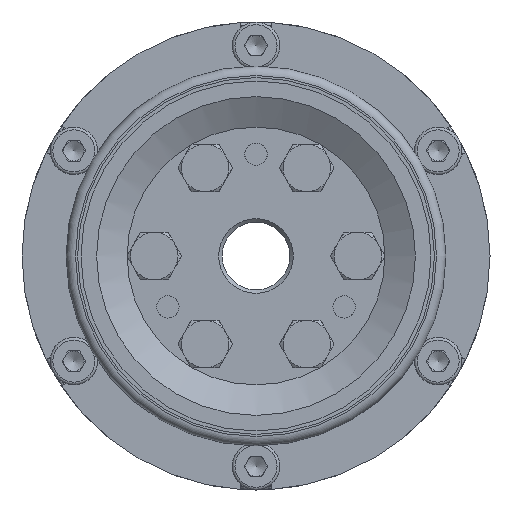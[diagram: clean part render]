
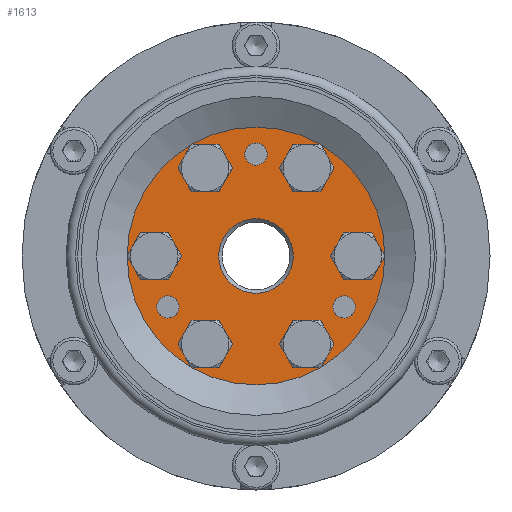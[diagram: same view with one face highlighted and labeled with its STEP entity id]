
A CAD part, left-side view. The second image highlights one B-rep face of the part: STEP entity #1613.
In plain terms, the highlighted planar face has unit normal (-1, 0, 0).
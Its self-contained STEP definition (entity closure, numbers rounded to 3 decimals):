
#1613 = ADVANCED_FACE( '', ( #3551, #3552, #3553, #3554, #3555, #3556, #3557, #3558, #3559, #3560, #3561 ), #3562, .T. );
#3551 = FACE_BOUND( '', #6147, .T. );
#3552 = FACE_OUTER_BOUND( '', #6148, .T. );
#3553 = FACE_BOUND( '', #6149, .T. );
#3554 = FACE_BOUND( '', #6150, .T. );
#3555 = FACE_BOUND( '', #6151, .T. );
#3556 = FACE_BOUND( '', #6152, .T. );
#3557 = FACE_BOUND( '', #6153, .T. );
#3558 = FACE_BOUND( '', #6154, .T. );
#3559 = FACE_BOUND( '', #6155, .T. );
#3560 = FACE_BOUND( '', #6156, .T. );
#3561 = FACE_BOUND( '', #6157, .T. );
#3562 = PLANE( '', #6158 );
#6147 = EDGE_LOOP( '', ( #10774 ) );
#6148 = EDGE_LOOP( '', ( #10775 ) );
#6149 = EDGE_LOOP( '', ( #10776 ) );
#6150 = EDGE_LOOP( '', ( #10777 ) );
#6151 = EDGE_LOOP( '', ( #10778 ) );
#6152 = EDGE_LOOP( '', ( #10779 ) );
#6153 = EDGE_LOOP( '', ( #10780 ) );
#6154 = EDGE_LOOP( '', ( #10781 ) );
#6155 = EDGE_LOOP( '', ( #10782 ) );
#6156 = EDGE_LOOP( '', ( #10783 ) );
#6157 = EDGE_LOOP( '', ( #10784 ) );
#6158 = AXIS2_PLACEMENT_3D( '', #10785, #10786, #10787 );
#10774 = ORIENTED_EDGE( '', *, *, #13525, .T. );
#10775 = ORIENTED_EDGE( '', *, *, #13526, .T. );
#10776 = ORIENTED_EDGE( '', *, *, #12667, .F. );
#10777 = ORIENTED_EDGE( '', *, *, #13527, .F. );
#10778 = ORIENTED_EDGE( '', *, *, #11788, .F. );
#10779 = ORIENTED_EDGE( '', *, *, #12718, .T. );
#10780 = ORIENTED_EDGE( '', *, *, #13528, .T. );
#10781 = ORIENTED_EDGE( '', *, *, #13034, .T. );
#10782 = ORIENTED_EDGE( '', *, *, #13318, .T. );
#10783 = ORIENTED_EDGE( '', *, *, #13529, .T. );
#10784 = ORIENTED_EDGE( '', *, *, #13530, .T. );
#10785 = CARTESIAN_POINT( '', ( -42.5, 0., 4. ) );
#10786 = DIRECTION( '', ( -1., 0., 0. ) );
#10787 = DIRECTION( '', ( 0., 0., 1. ) );
#11788 = EDGE_CURVE( '', #13716, #13716, #13717, .T. );
#12667 = EDGE_CURVE( '', #15173, #15173, #15174, .T. );
#12718 = EDGE_CURVE( '', #15250, #15250, #15251, .T. );
#13034 = EDGE_CURVE( '', #15704, #15704, #15705, .T. );
#13318 = EDGE_CURVE( '', #16079, #16079, #16080, .T. );
#13525 = EDGE_CURVE( '', #16320, #16320, #16321, .F. );
#13526 = EDGE_CURVE( '', #16322, #16322, #16323, .T. );
#13527 = EDGE_CURVE( '', #16324, #16324, #16325, .T. );
#13528 = EDGE_CURVE( '', #16326, #16326, #16327, .T. );
#13529 = EDGE_CURVE( '', #16328, #16328, #16329, .T. );
#13530 = EDGE_CURVE( '', #16330, #16330, #16331, .T. );
#13716 = VERTEX_POINT( '', #16533 );
#13717 = CIRCLE( '', #16534, 1.65 );
#15173 = VERTEX_POINT( '', #19520 );
#15174 = CIRCLE( '', #19521, 1.65 );
#15250 = VERTEX_POINT( '', #19638 );
#15251 = CIRCLE( '', #19639, 2.95 );
#15704 = VERTEX_POINT( '', #20529 );
#15705 = CIRCLE( '', #20530, 2.95 );
#16079 = VERTEX_POINT( '', #21212 );
#16080 = CIRCLE( '', #21213, 2.95 );
#16320 = VERTEX_POINT( '', #21662 );
#16321 = CIRCLE( '', #21663, 5.5 );
#16322 = VERTEX_POINT( '', #21664 );
#16323 = CIRCLE( '', #21665, 19. );
#16324 = VERTEX_POINT( '', #21666 );
#16325 = CIRCLE( '', #21667, 1.65 );
#16326 = VERTEX_POINT( '', #21668 );
#16327 = CIRCLE( '', #21669, 2.95 );
#16328 = VERTEX_POINT( '', #21670 );
#16329 = CIRCLE( '', #21671, 2.95 );
#16330 = VERTEX_POINT( '', #21672 );
#16331 = CIRCLE( '', #21673, 2.95 );
#16533 = CARTESIAN_POINT( '', ( -42.5, -12.99, -5.85 ) );
#16534 = AXIS2_PLACEMENT_3D( '', #21965, #21966, #21967 );
#19520 = CARTESIAN_POINT( '', ( -42.5, 12.99, -5.85 ) );
#19521 = AXIS2_PLACEMENT_3D( '', #23158, #23159, #23160 );
#19638 = CARTESIAN_POINT( '', ( -42.5, 7.5, 15.94 ) );
#19639 = AXIS2_PLACEMENT_3D( '', #23224, #23225, #23226 );
#20529 = CARTESIAN_POINT( '', ( -42.5, -7.5, 15.94 ) );
#20530 = AXIS2_PLACEMENT_3D( '', #23624, #23625, #23626 );
#21212 = CARTESIAN_POINT( '', ( -42.5, -15., 2.95 ) );
#21213 = AXIS2_PLACEMENT_3D( '', #23964, #23965, #23966 );
#21662 = CARTESIAN_POINT( '', ( -42.5, 0., 5.5 ) );
#21663 = AXIS2_PLACEMENT_3D( '', #24138, #24139, #24140 );
#21664 = CARTESIAN_POINT( '', ( -42.5, 0., 19. ) );
#21665 = AXIS2_PLACEMENT_3D( '', #24141, #24142, #24143 );
#21666 = CARTESIAN_POINT( '', ( -42.5, 0., 16.65 ) );
#21667 = AXIS2_PLACEMENT_3D( '', #24144, #24145, #24146 );
#21668 = CARTESIAN_POINT( '', ( -42.5, 15., 2.95 ) );
#21669 = AXIS2_PLACEMENT_3D( '', #24147, #24148, #24149 );
#21670 = CARTESIAN_POINT( '', ( -42.5, -7.5, -10.04 ) );
#21671 = AXIS2_PLACEMENT_3D( '', #24150, #24151, #24152 );
#21672 = CARTESIAN_POINT( '', ( -42.5, 7.5, -10.04 ) );
#21673 = AXIS2_PLACEMENT_3D( '', #24153, #24154, #24155 );
#21965 = CARTESIAN_POINT( '', ( -42.5, -12.99, -7.5 ) );
#21966 = DIRECTION( '', ( -1., 0., 0. ) );
#21967 = DIRECTION( '', ( 0., 0., 1. ) );
#23158 = CARTESIAN_POINT( '', ( -42.5, 12.99, -7.5 ) );
#23159 = DIRECTION( '', ( -1., 0., 0. ) );
#23160 = DIRECTION( '', ( 0., 0., 1. ) );
#23224 = CARTESIAN_POINT( '', ( -42.5, 7.5, 12.99 ) );
#23225 = DIRECTION( '', ( 1., 0., 0. ) );
#23226 = DIRECTION( '', ( 0., 0., 1. ) );
#23624 = CARTESIAN_POINT( '', ( -42.5, -7.5, 12.99 ) );
#23625 = DIRECTION( '', ( 1., 0., 0. ) );
#23626 = DIRECTION( '', ( 0., 0., 1. ) );
#23964 = CARTESIAN_POINT( '', ( -42.5, -15., 0. ) );
#23965 = DIRECTION( '', ( 1., 0., 0. ) );
#23966 = DIRECTION( '', ( 0., 0., 1. ) );
#24138 = CARTESIAN_POINT( '', ( -42.5, 0., 0. ) );
#24139 = DIRECTION( '', ( -1., 0., 0. ) );
#24140 = DIRECTION( '', ( 0., 0., 1. ) );
#24141 = CARTESIAN_POINT( '', ( -42.5, 0., 0. ) );
#24142 = DIRECTION( '', ( -1., 0., 0. ) );
#24143 = DIRECTION( '', ( 0., 0., 1. ) );
#24144 = CARTESIAN_POINT( '', ( -42.5, 0., 15. ) );
#24145 = DIRECTION( '', ( -1., 0., 0. ) );
#24146 = DIRECTION( '', ( 0., 0., 1. ) );
#24147 = CARTESIAN_POINT( '', ( -42.5, 15., 0. ) );
#24148 = DIRECTION( '', ( 1., 0., 0. ) );
#24149 = DIRECTION( '', ( 0., 0., 1. ) );
#24150 = CARTESIAN_POINT( '', ( -42.5, -7.5, -12.99 ) );
#24151 = DIRECTION( '', ( 1., 0., 0. ) );
#24152 = DIRECTION( '', ( 0., 0., 1. ) );
#24153 = CARTESIAN_POINT( '', ( -42.5, 7.5, -12.99 ) );
#24154 = DIRECTION( '', ( 1., 0., 0. ) );
#24155 = DIRECTION( '', ( 0., 0., 1. ) );
